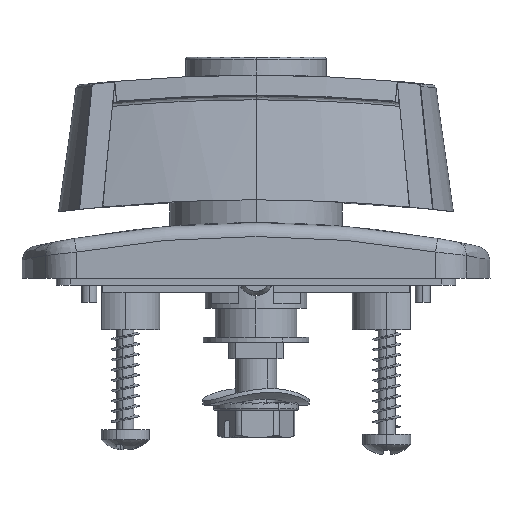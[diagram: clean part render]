
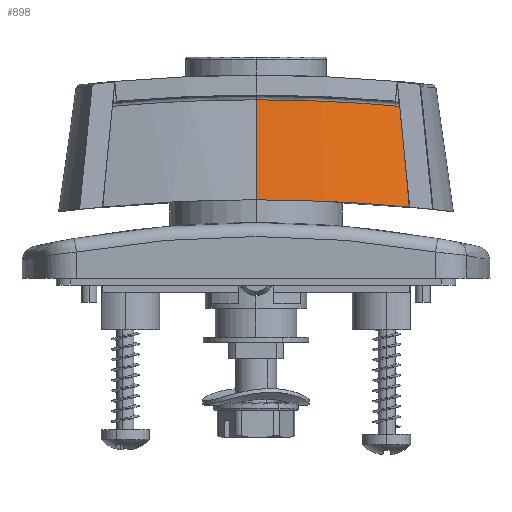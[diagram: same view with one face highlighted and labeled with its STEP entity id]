
A CAD part, left-side view. The second image highlights one B-rep face of the part: STEP entity #898.
In plain terms, the highlighted conical face has half-angle 8 degrees and reference radius 84.917 mm.
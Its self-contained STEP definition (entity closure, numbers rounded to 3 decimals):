
#39 = VERTEX_POINT ( 'NONE', #26687 ) ;
#898 = ADVANCED_FACE ( 'NONE', ( #9876 ), #18997, .T. ) ;
#1334 = CARTESIAN_POINT ( 'NONE',  ( 38.29, 27.2, -152.928 ) ) ;
#1366 = CARTESIAN_POINT ( 'NONE',  ( 37.608, 29.932, -152.676 ) ) ;
#1403 = CARTESIAN_POINT ( 'NONE',  ( 37.058, 32.707, -152.469 ) ) ;
#1434 = CARTESIAN_POINT ( 'NONE',  ( 36.243, 38.214, -152.163 ) ) ;
#1504 = CARTESIAN_POINT ( 'NONE',  ( 35.971, 40.943, -152.06 ) ) ;
#1534 = CARTESIAN_POINT ( 'NONE',  ( 35.75, 45.185, -151.976 ) ) ;
#1564 = CARTESIAN_POINT ( 'NONE',  ( 35.711, 48.197, -151.961 ) ) ;
#1598 = CARTESIAN_POINT ( 'NONE',  ( 35.711, 46.691, -151.961 ) ) ;
#1926 = CARTESIAN_POINT ( 'NONE',  ( 36.499, 25.945, -167.545 ) ) ;
#1936 = CARTESIAN_POINT ( 'NONE',  ( 35.557, 29.585, -167.202 ) ) ;
#1993 = CARTESIAN_POINT ( 'NONE',  ( 34.852, 33.26, -166.94 ) ) ;
#2098 = CARTESIAN_POINT ( 'NONE',  ( 33.908, 40.677, -166.588 ) ) ;
#2501 = CARTESIAN_POINT ( 'NONE',  ( 33.668, 48.197, -166.498 ) ) ;
#2598 = CARTESIAN_POINT ( 'NONE',  ( 33.668, 44.419, -166.498 ) ) ;
#5149 = B_SPLINE_CURVE_WITH_KNOTS ( 'NONE', 3,
 ( #1564, #1598, #1534, #1504, #1434, #1403, #1366, #1334 ),
 .UNSPECIFIED., .F., .F.,
 ( 4, 2, 2, 4 ),
 ( 0., 0.213, 0.6, 1. ),
 .UNSPECIFIED. ) ;
#5940 = VERTEX_POINT ( 'NONE', #23893 ) ;
#8565 = CARTESIAN_POINT ( 'NONE',  ( 36.499, 25.945, -167.545 ) ) ;
#8996 = ORIENTED_EDGE ( 'NONE', *, *, #19793, .F. ) ;
#9481 = ORIENTED_EDGE ( 'NONE', *, *, #19752, .T. ) ;
#9876 = FACE_OUTER_BOUND ( 'NONE', #10703, .T. ) ;
#10640 = CARTESIAN_POINT ( 'NONE',  ( 36.499, 25.945, -167.545 ) ) ;
#10644 = CARTESIAN_POINT ( 'NONE',  ( 36.657, 26.046, -166.27 ) ) ;
#10671 = CARTESIAN_POINT ( 'NONE',  ( 36.815, 26.15, -164.996 ) ) ;
#10702 = CARTESIAN_POINT ( 'NONE',  ( 37.078, 26.327, -162.861 ) ) ;
#10703 = EDGE_LOOP ( 'NONE', ( #14689, #9481, #15755, #8996 ) ) ;
#10770 = CARTESIAN_POINT ( 'NONE',  ( 37.183, 26.399, -162.001 ) ) ;
#10779 = CARTESIAN_POINT ( 'NONE',  ( 37.355, 26.518, -160.604 ) ) ;
#10865 = CARTESIAN_POINT ( 'NONE',  ( 37.421, 26.565, -160.067 ) ) ;
#10874 = CARTESIAN_POINT ( 'NONE',  ( 37.552, 26.658, -158.992 ) ) ;
#10898 = CARTESIAN_POINT ( 'NONE',  ( 37.618, 26.704, -158.455 ) ) ;
#10966 = CARTESIAN_POINT ( 'NONE',  ( 37.788, 26.827, -157.058 ) ) ;
#10976 = CARTESIAN_POINT ( 'NONE',  ( 37.893, 26.904, -156.199 ) ) ;
#11034 = CARTESIAN_POINT ( 'NONE',  ( 38.095, 27.053, -154.535 ) ) ;
#11066 = CARTESIAN_POINT ( 'NONE',  ( 38.193, 27.126, -153.732 ) ) ;
#11122 = CARTESIAN_POINT ( 'NONE',  ( 38.29, 27.2, -152.928 ) ) ;
#11694 = DIRECTION ( 'NONE',  ( 0., 0., -1. ) ) ;
#11795 = CARTESIAN_POINT ( 'NONE',  ( 118.154, 48.202, -169.557 ) ) ;
#12119 = DIRECTION ( 'NONE',  ( -1., 0., 0. ) ) ;
#13495 = CARTESIAN_POINT ( 'NONE',  ( 33.668, 48.197, -166.498 ) ) ;
#14689 = ORIENTED_EDGE ( 'NONE', *, *, #17846, .T. ) ;
#15755 = ORIENTED_EDGE ( 'NONE', *, *, #19256, .F. ) ;
#16271 = CARTESIAN_POINT ( 'NONE',  ( 35.711, 48.197, -151.961 ) ) ;
#16646 = DIRECTION ( 'NONE',  ( -0.139, 0., -0.99 ) ) ;
#17387 = VERTEX_POINT ( 'NONE', #13495 ) ;
#17846 = EDGE_CURVE ( 'NONE', #5940, #17387, #19924, .T. ) ;
#18997 = CONICAL_SURFACE ( 'NONE', #20350, 84.917, 0.14 ) ;
#19182 = B_SPLINE_CURVE_WITH_KNOTS ( 'NONE', 3,
 ( #2501, #2598, #2098, #1993, #1936, #1926 ),
 .UNSPECIFIED., .F., .F.,
 ( 4, 2, 4 ),
 ( 0., 0.011, 0.022 ),
 .UNSPECIFIED. ) ;
#19256 = EDGE_CURVE ( 'NONE', #39, #21152, #20479, .T. ) ;
#19752 = EDGE_CURVE ( 'NONE', #17387, #21152, #19182, .T. ) ;
#19793 = EDGE_CURVE ( 'NONE', #5940, #39, #5149, .T. ) ;
#19924 = LINE ( 'NONE', #16271, #20321 ) ;
#20321 = VECTOR ( 'NONE', #16646, 1000. ) ;
#20350 = AXIS2_PLACEMENT_3D ( 'NONE', #11795, #11694, #12119 ) ;
#20479 = B_SPLINE_CURVE_WITH_KNOTS ( 'NONE', 3,
 ( #11122, #11066, #11034, #10976, #10966, #10898, #10874, #10865, #10779, #10770, #10702, #10671, #10644, #10640 ),
 .UNSPECIFIED., .F., .F.,
 ( 4, 2, 2, 2, 2, 2, 4 ),
 ( 0., 0.146, 0.302, 0.4, 0.497, 0.653, 0.885 ),
 .UNSPECIFIED. ) ;
#21152 = VERTEX_POINT ( 'NONE', #8565 ) ;
#23893 = CARTESIAN_POINT ( 'NONE',  ( 35.711, 48.197, -151.961 ) ) ;
#26687 = CARTESIAN_POINT ( 'NONE',  ( 38.29, 27.2, -152.928 ) ) ;
